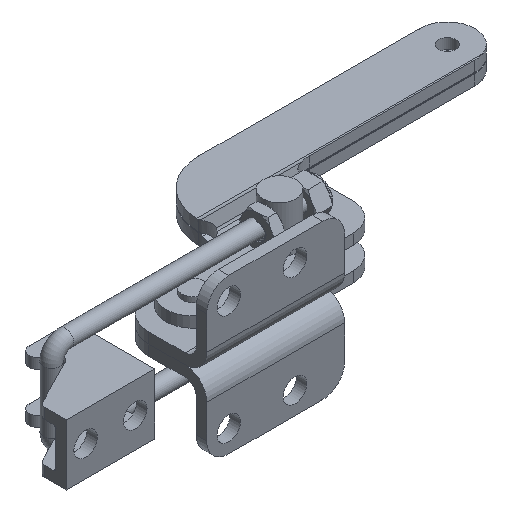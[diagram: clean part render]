
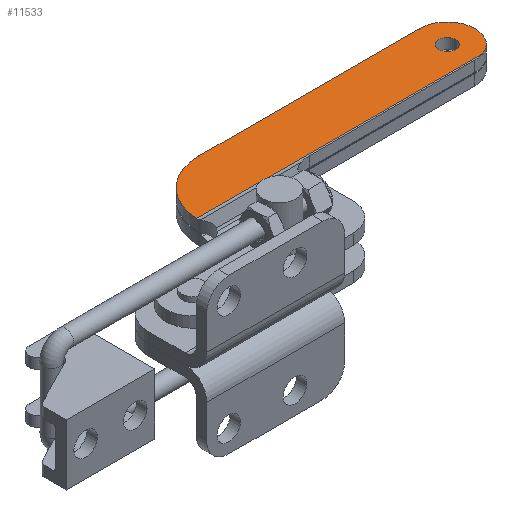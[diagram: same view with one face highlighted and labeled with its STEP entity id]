
A CAD part, isometric view. The second image highlights one B-rep face of the part: STEP entity #11533.
In plain terms, the highlighted planar face has unit normal (0, 0, 1).
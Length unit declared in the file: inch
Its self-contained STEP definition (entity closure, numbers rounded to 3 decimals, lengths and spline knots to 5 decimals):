
#11219=CARTESIAN_POINT('',(19.34701,2.60833,0.29833));
#11220=VERTEX_POINT('',#11219);
#11264=CARTESIAN_POINT('',(22.5895,2.60833,0.29833));
#11265=VERTEX_POINT('',#11264);
#11273=CARTESIAN_POINT('',(19.34701,2.60833,0.29833));
#11274=DIRECTION('',(1.0,0.0,0.0));
#11275=VECTOR('',#11274,3.24249);
#11276=LINE('',#11273,#11275);
#11277=EDGE_CURVE('',#11220,#11265,#11276,.T.);
#11490=CARTESIAN_POINT('',(17.47158,2.60833,0.29833));
#11491=DIRECTION('',(0.0,0.0,1.0));
#11492=DIRECTION('',(1.0,0.0,0.0));
#11493=AXIS2_PLACEMENT_3D('',#11490,#11491,#11492);
#11494=PLANE('',#11493);
#11495=CARTESIAN_POINT('',(19.97158,3.21023,0.29833));
#11496=VERTEX_POINT('',#11495);
#11497=CARTESIAN_POINT('',(19.97158,2.58523,0.29833));
#11498=DIRECTION('',(0.0,0.0,1.0));
#11499=DIRECTION('',(-0.707,0.707,0.0));
#11500=AXIS2_PLACEMENT_3D('',#11497,#11498,#11499);
#11501=CIRCLE('',#11500,0.625);
#11502=EDGE_CURVE('',#11496,#11220,#11501,.T.);
#11503=ORIENTED_EDGE('',*,*,#11502,.T.);
#11504=ORIENTED_EDGE('',*,*,#11277,.T.);
#11505=CARTESIAN_POINT('',(22.47158,3.21023,0.29833));
#11506=VERTEX_POINT('',#11505);
#11507=CARTESIAN_POINT('',(22.47158,2.89773,0.29833));
#11508=DIRECTION('',(0.0,0.0,1.0));
#11509=DIRECTION('',(1.0,0.0,0.0));
#11510=AXIS2_PLACEMENT_3D('',#11507,#11508,#11509);
#11511=CIRCLE('',#11510,0.3125);
#11512=EDGE_CURVE('',#11265,#11506,#11511,.T.);
#11513=ORIENTED_EDGE('',*,*,#11512,.T.);
#11514=CARTESIAN_POINT('',(22.47158,3.21023,0.29833));
#11515=DIRECTION('',(-1.0,0.0,0.0));
#11516=VECTOR('',#11515,2.5);
#11517=LINE('',#11514,#11516);
#11518=EDGE_CURVE('',#11506,#11496,#11517,.T.);
#11519=ORIENTED_EDGE('',*,*,#11518,.T.);
#11520=EDGE_LOOP('',(#11503,#11504,#11513,#11519));
#11521=FACE_OUTER_BOUND('',#11520,.T.);
#11522=CARTESIAN_POINT('',(22.47158,2.99373,0.29833));
#11523=VERTEX_POINT('',#11522);
#11524=CARTESIAN_POINT('',(22.47158,2.89773,0.29833));
#11525=DIRECTION('',(0.0,0.0,-1.0));
#11526=DIRECTION('',(0.0,-1.0,0.0));
#11527=AXIS2_PLACEMENT_3D('',#11524,#11525,#11526);
#11528=CIRCLE('',#11527,0.096);
#11529=EDGE_CURVE('',#11523,#11523,#11528,.T.);
#11530=ORIENTED_EDGE('',*,*,#11529,.T.);
#11531=EDGE_LOOP('',(#11530));
#11532=FACE_BOUND('',#11531,.T.);
#11533=ADVANCED_FACE('',(#11521,#11532),#11494,.T.);
